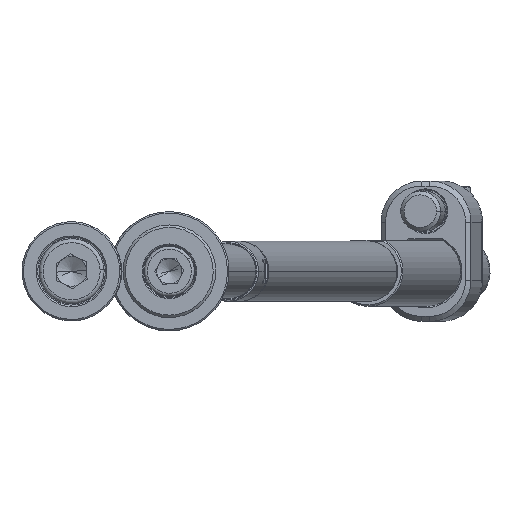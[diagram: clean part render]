
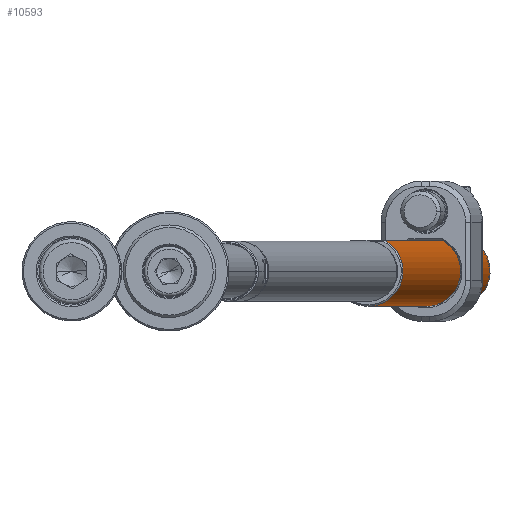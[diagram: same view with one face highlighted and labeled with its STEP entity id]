
A CAD part, front view. The second image highlights one B-rep face of the part: STEP entity #10593.
In plain terms, the highlighted cylindrical face has radius 7 mm (diameter 14 mm), a partial arc.
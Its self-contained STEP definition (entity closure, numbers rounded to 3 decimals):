
#38 = CARTESIAN_POINT ( 'NONE',  ( 6.2, -3.25, 200. ) ) ;
#321 = DIRECTION ( 'NONE',  ( 1., 0., 0. ) ) ;
#327 = ORIENTED_EDGE ( 'NONE', *, *, #13475, .T. ) ;
#406 = FACE_OUTER_BOUND ( 'NONE', #8048, .T. ) ;
#411 = B_SPLINE_CURVE_WITH_KNOTS ( 'NONE', 3,
 ( #14151, #1052, #5372, #9790 ),
 .UNSPECIFIED., .F., .F.,
 ( 4, 4 ),
 ( 0., 0. ),
 .UNSPECIFIED. ) ;
#473 = AXIS2_PLACEMENT_3D ( 'NONE', #13621, #8216, #12573 ) ;
#688 = CARTESIAN_POINT ( 'NONE',  ( 5.876, -3.805, 8.752 ) ) ;
#944 = CARTESIAN_POINT ( 'NONE',  ( 5.876, -3.804, 11.25 ) ) ;
#1052 = CARTESIAN_POINT ( 'NONE',  ( 6.131, -3.379, 12.204 ) ) ;
#1201 = EDGE_CURVE ( 'NONE', #4010, #12946, #9720, .T. ) ;
#1306 = AXIS2_PLACEMENT_3D ( 'NONE', #5903, #2915, #321 ) ;
#1443 = CIRCLE ( 'NONE', #11564, 7. ) ;
#1611 = CARTESIAN_POINT ( 'NONE',  ( 6.164, -3.317, 7.646 ) ) ;
#1691 = ORIENTED_EDGE ( 'NONE', *, *, #4704, .T. ) ;
#1699 = EDGE_CURVE ( 'NONE', #2210, #5079, #3447, .T. ) ;
#2210 = VERTEX_POINT ( 'NONE', #10207 ) ;
#2776 = ORIENTED_EDGE ( 'NONE', *, *, #1201, .F. ) ;
#2799 = CARTESIAN_POINT ( 'NONE',  ( 5.78, -3.95, 9.275 ) ) ;
#2915 = DIRECTION ( 'NONE',  ( 0., 0., 1. ) ) ;
#2997 = B_SPLINE_CURVE_WITH_KNOTS ( 'NONE', 3,
 ( #6198, #3019, #5055, #7424, #944, #10621, #7365, #11831, #2799, #688, #10558, #11770, #5115, #6257 ),
 .UNSPECIFIED., .F., .F.,
 ( 4, 2, 2, 2, 2, 2, 4 ),
 ( 0., 0.001, 0.001, 0.003, 0.004, 0.004, 0.005 ),
 .UNSPECIFIED. ) ;
#3019 = CARTESIAN_POINT ( 'NONE',  ( 6.049, -3.524, 11.901 ) ) ;
#3049 = CARTESIAN_POINT ( 'NONE',  ( 6.2, -3.25, 200. ) ) ;
#3313 = B_SPLINE_CURVE_WITH_KNOTS ( 'NONE', 3,
 ( #9133, #1611, #12622, #4928 ),
 .UNSPECIFIED., .F., .F.,
 ( 4, 4 ),
 ( 0., 0. ),
 .UNSPECIFIED. ) ;
#3405 = ORIENTED_EDGE ( 'NONE', *, *, #6910, .F. ) ;
#3447 = LINE ( 'NONE', #38, #4767 ) ;
#4010 = VERTEX_POINT ( 'NONE', #5307 ) ;
#4026 = ORIENTED_EDGE ( 'NONE', *, *, #1699, .F. ) ;
#4269 = EDGE_CURVE ( 'NONE', #13983, #13236, #12951, .T. ) ;
#4472 = CARTESIAN_POINT ( 'NONE',  ( 0., 0., 199.7 ) ) ;
#4704 = EDGE_CURVE ( 'NONE', #5841, #5079, #411, .T. ) ;
#4758 = CARTESIAN_POINT ( 'NONE',  ( 6.1, -3.434, 12.052 ) ) ;
#4767 = VECTOR ( 'NONE', #7858, 1000. ) ;
#4928 = CARTESIAN_POINT ( 'NONE',  ( 6.1, -3.434, 7.948 ) ) ;
#5055 = CARTESIAN_POINT ( 'NONE',  ( 6.002, -3.604, 11.745 ) ) ;
#5079 = VERTEX_POINT ( 'NONE', #9206 ) ;
#5115 = CARTESIAN_POINT ( 'NONE',  ( 6.049, -3.524, 8.099 ) ) ;
#5307 = CARTESIAN_POINT ( 'NONE',  ( 6.2, -3.25, 7.5 ) ) ;
#5372 = CARTESIAN_POINT ( 'NONE',  ( 6.164, -3.317, 12.354 ) ) ;
#5841 = VERTEX_POINT ( 'NONE', #4758 ) ;
#5903 = CARTESIAN_POINT ( 'NONE',  ( 0., 0., 0.3 ) ) ;
#6089 = VERTEX_POINT ( 'NONE', #12245 ) ;
#6198 = CARTESIAN_POINT ( 'NONE',  ( 6.1, -3.434, 12.052 ) ) ;
#6255 = CARTESIAN_POINT ( 'NONE',  ( -7., 0., 200. ) ) ;
#6257 = CARTESIAN_POINT ( 'NONE',  ( 6.1, -3.434, 7.948 ) ) ;
#6910 = EDGE_CURVE ( 'NONE', #5841, #6089, #2997, .T. ) ;
#7033 = CIRCLE ( 'NONE', #1306, 7. ) ;
#7365 = CARTESIAN_POINT ( 'NONE',  ( 5.745, -4., 10.372 ) ) ;
#7424 = CARTESIAN_POINT ( 'NONE',  ( 5.915, -3.744, 11.42 ) ) ;
#7789 = CARTESIAN_POINT ( 'NONE',  ( -7., 0., 0.3 ) ) ;
#7858 = DIRECTION ( 'NONE',  ( 0., 0., -1. ) ) ;
#7872 = DIRECTION ( 'NONE',  ( 1., 0., 0. ) ) ;
#7925 = CYLINDRICAL_SURFACE ( 'NONE', #473, 7. ) ;
#8048 = EDGE_LOOP ( 'NONE', ( #13880, #8091, #12365, #2776, #327, #3405, #1691, #4026 ) ) ;
#8091 = ORIENTED_EDGE ( 'NONE', *, *, #4269, .T. ) ;
#8216 = DIRECTION ( 'NONE',  ( 0., 0., -1. ) ) ;
#8895 = DIRECTION ( 'NONE',  ( 0., 0., -1. ) ) ;
#9133 = CARTESIAN_POINT ( 'NONE',  ( 6.2, -3.25, 7.5 ) ) ;
#9206 = CARTESIAN_POINT ( 'NONE',  ( 6.2, -3.25, 12.5 ) ) ;
#9720 = LINE ( 'NONE', #3049, #12660 ) ;
#9790 = CARTESIAN_POINT ( 'NONE',  ( 6.2, -3.25, 12.5 ) ) ;
#9888 = EDGE_CURVE ( 'NONE', #13236, #12946, #7033, .T. ) ;
#10207 = CARTESIAN_POINT ( 'NONE',  ( 6.2, -3.25, 199.7 ) ) ;
#10558 = CARTESIAN_POINT ( 'NONE',  ( 5.915, -3.744, 8.582 ) ) ;
#10593 = ADVANCED_FACE ( 'NONE', ( #406 ), #7925, .T. ) ;
#10621 = CARTESIAN_POINT ( 'NONE',  ( 5.781, -3.95, 10.729 ) ) ;
#10650 = DIRECTION ( 'NONE',  ( 0., 0., -1. ) ) ;
#10785 = CARTESIAN_POINT ( 'NONE',  ( 6.2, -3.25, 0.3 ) ) ;
#10797 = VECTOR ( 'NONE', #14048, 1000. ) ;
#11065 = EDGE_CURVE ( 'NONE', #2210, #13983, #1443, .T. ) ;
#11564 = AXIS2_PLACEMENT_3D ( 'NONE', #4472, #8895, #7872 ) ;
#11770 = CARTESIAN_POINT ( 'NONE',  ( 6.001, -3.604, 8.256 ) ) ;
#11831 = CARTESIAN_POINT ( 'NONE',  ( 5.744, -4., 9.635 ) ) ;
#12245 = CARTESIAN_POINT ( 'NONE',  ( 6.1, -3.434, 7.948 ) ) ;
#12365 = ORIENTED_EDGE ( 'NONE', *, *, #9888, .T. ) ;
#12573 = DIRECTION ( 'NONE',  ( -1., 0., 0. ) ) ;
#12622 = CARTESIAN_POINT ( 'NONE',  ( 6.131, -3.379, 7.796 ) ) ;
#12660 = VECTOR ( 'NONE', #10650, 1000. ) ;
#12946 = VERTEX_POINT ( 'NONE', #10785 ) ;
#12951 = LINE ( 'NONE', #6255, #10797 ) ;
#13236 = VERTEX_POINT ( 'NONE', #7789 ) ;
#13475 = EDGE_CURVE ( 'NONE', #4010, #6089, #3313, .T. ) ;
#13621 = CARTESIAN_POINT ( 'NONE',  ( 0., 0., 200. ) ) ;
#13721 = CARTESIAN_POINT ( 'NONE',  ( -7., 0., 199.7 ) ) ;
#13880 = ORIENTED_EDGE ( 'NONE', *, *, #11065, .T. ) ;
#13983 = VERTEX_POINT ( 'NONE', #13721 ) ;
#14048 = DIRECTION ( 'NONE',  ( 0., 0., -1. ) ) ;
#14151 = CARTESIAN_POINT ( 'NONE',  ( 6.1, -3.434, 12.052 ) ) ;
